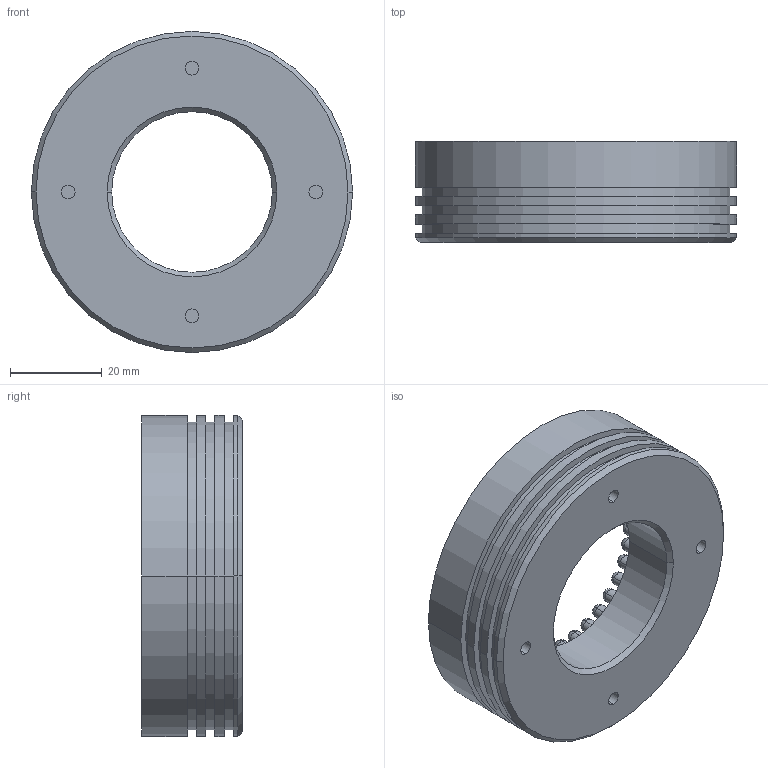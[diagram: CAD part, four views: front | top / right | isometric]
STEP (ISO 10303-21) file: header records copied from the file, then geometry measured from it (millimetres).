
FILE_DESCRIPTION((''),'2;1');
FILE_NAME('70-0W_ASM','2020-03-28T',('ASUS'),(''),'PRO/ENGINEER BY PARAMETRIC TECHNOLOGY CORPORATION, 2008380','PRO/ENGINEER BY PARAMETRIC TECHNOLOGY CORPORATION, 2008380','');
FILE_SCHEMA(('CONFIG_CONTROL_DESIGN'));
Length unit declared in the file: millimetre
Products named in the file (3): 70-0; 4_; 70-0W_ASM
Assembly tree (97 placements, depth 2):
  70-0W_ASM
    70-0
    4_  x96
Bounding box: 70 x 22 x 70 mm (x, y, z)
Volume: 37097.7 mm3; surface area: 27080.6 mm2
Topology: 97 solids, 98 shells, 820 faces, 1640 edges, 932 vertices
Faces by surface type: cylinder 416, plane 208, sphere 192, cone 4
Entity records: 2434 total; most frequent: DIRECTION 516, CARTESIAN_POINT 355, AXIS2_PLACEMENT_3D 238, ORIENTED_EDGE 236, EDGE_CURVE 118, PRODUCT_DEFINITION_SHAPE 100, ITEM_DEFINED_TRANSFORMATION 97, CONTEXT_DEPENDENT_SHAPE_REPRESENTATION 97
